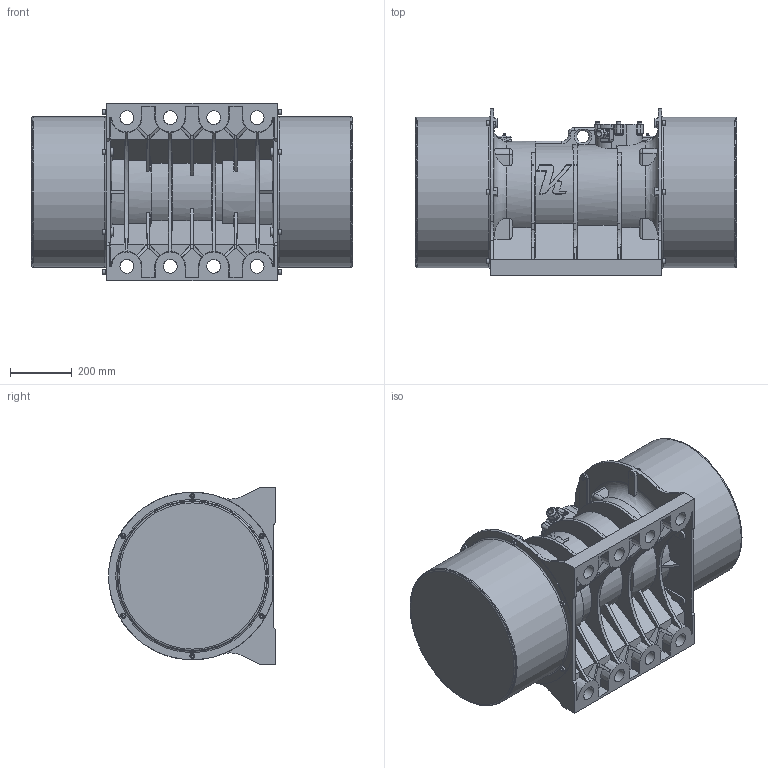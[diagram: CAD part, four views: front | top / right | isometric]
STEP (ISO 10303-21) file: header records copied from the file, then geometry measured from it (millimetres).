
FILE_DESCRIPTION(/* description */ (''),/* implementation_level */ '2;1');
FILE_NAME(/* name */ '11 NO B1 TAS.stp',/* time_stamp */ '2026-09-07T17:48:06+03:00',/* author */ ('PC'),/* organization */ (''),/* preprocessor_version */ 'ST-DEVELOPER v20.1',/* originating_system */ 'Autodesk Inventor 2026',/* authorisation */ '');
FILE_SCHEMA (('AUTOMOTIVE_DESIGN { 1 0 10303 214 3 1 1 }'));
Length unit declared in the file: millimetre
Products named in the file (1): 11 NO B1 TAS
Bounding box: 1038 x 538.5 x 573.99 mm (x, y, z)
Volume: 148422161.2 mm3; surface area: 3259887.3 mm2
Topology: 1 solids, 35 shells, 1234 faces, 3107 edges, 1979 vertices
Faces by surface type: plane 585, cylinder 338, torus 115, cone 114, bspline 80, sphere 2
Full cylindrical faces by diameter (mm): 4 x2, 4.917 x2, 6.647 x8, 8 x5, 8.5 x6, 10 x20, 10.5 x12, 11 x12, 13 x5, 13.835 x8, 16 x12, 18.5 x1, 18.6 x1, 21.3 x1, 22.5 x1, 22.835 x1, 28 x1, 32.2 x1, 40 x1, 45 x8, 85 x8, 486 x2
Entity records: 42696 total; most frequent: CARTESIAN_POINT 12212, ORIENTED_EDGE 6118, DIRECTION 6096, EDGE_CURVE 3059, AXIS2_PLACEMENT_3D 2311, VERTEX_POINT 1979, LINE 1474, VECTOR 1474
